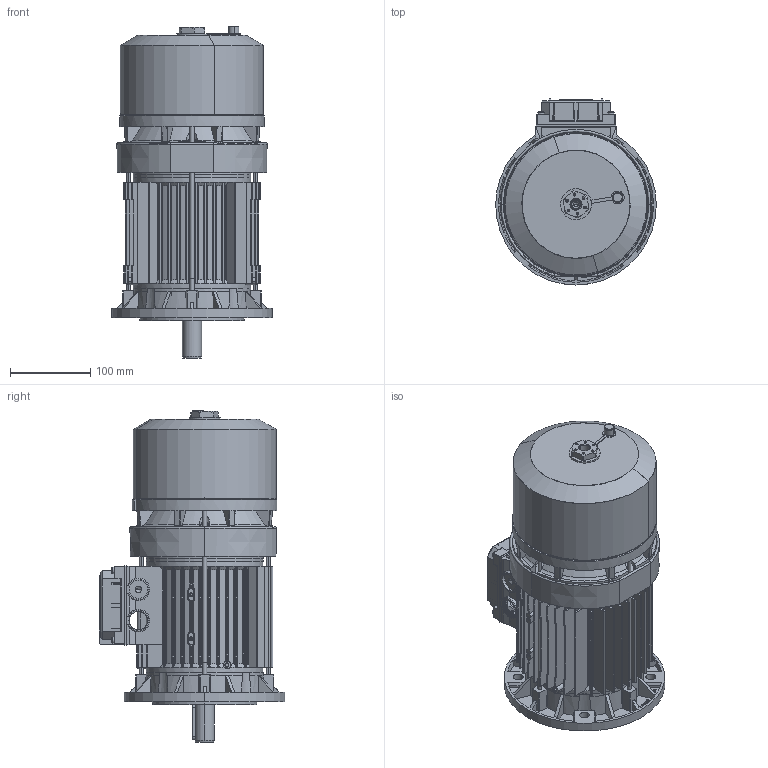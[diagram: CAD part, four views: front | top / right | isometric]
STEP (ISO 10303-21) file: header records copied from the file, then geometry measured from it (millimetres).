
FILE_DESCRIPTION (( 'STEP AP214' ), '1' );
FILE_NAME ('M02EB0010.STEP', '2018-10-17T12:17:56', ( '' ), ( '' ), 'SwSTEP 2.0', 'SolidWorks 2018', '' );
FILE_SCHEMA (( 'AUTOMOTIVE_DESIGN' ));
Length unit declared in the file: millimetre
Products named in the file (15): Chiavetta 90; Albero BA 90 S; Cuffia serie BA 90; Convogliatore con pista d''attrito P2 BA90; Scudo Lato Freno BA90 P1 - DDAE0094; Carcassa 90 S B5; M02EB0010; Coperchio per Scatola Singola 90 - 100 - 112 con viti; O-ring freno BA 90; Guarnizione Coperchio Semplice Scatola BA 90 100 112 - DDAL0094; Vite  a testa bombata M4x16; Coperchio per Scatola Singola 90 - 100 - 112; Vite a Testa Esagona con foro e tappo 71-112 - Modificata; Tirante BA 90S - DBA60094; Scudo a flangia B5 Fi 200 BA-BM 90 - DDAA00195
Assembly tree (20 placements, depth 3):
  M02EB0010
    Carcassa 90 S B5
    Scudo Lato Freno BA90 P1 - DDAE0094
    Convogliatore con pista d''attrito P2 BA90
    Cuffia serie BA 90
    Albero BA 90 S
    Chiavetta 90
    Scudo a flangia B5 Fi 200 BA-BM 90 - DDAA00195
    Tirante BA 90S - DBA60094  x4
    Vite a Testa Esagona con foro e tappo 71-112 - Modificata
    Coperchio per Scatola Singola 90 - 100 - 112 con viti
      Coperchio per Scatola Singola 90 - 100 - 112
      Vite  a testa bombata M4x16  x4
      Guarnizione Coperchio Semplice Scatola BA 90 100 112 - DDAL0094
    O-ring freno BA 90
Bounding box: 200 x 231.5 x 413.5 mm (x, y, z)
Volume: 1652117.3 mm3; surface area: 935286.9 mm2
Topology: 23 solids, 23 shells, 3220 faces, 8683 edges, 5524 vertices
Faces by surface type: plane 1151, cylinder 990, cone 433, torus 400, bspline 244, sphere 2
Entity records: 114070 total; most frequent: CARTESIAN_POINT 40633, ORIENTED_EDGE 16182, DIRECTION 14071, EDGE_CURVE 8091, AXIS2_PLACEMENT_3D 5370, VERTEX_POINT 5200, LINE 3331, VECTOR 3331
